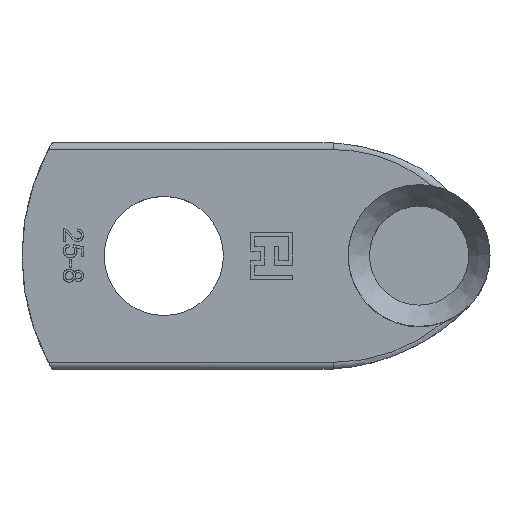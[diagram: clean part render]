
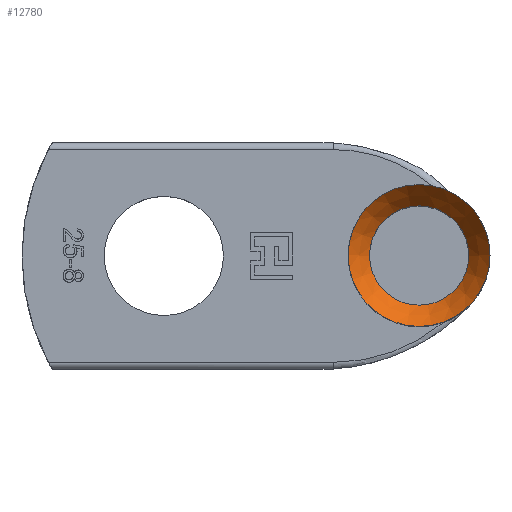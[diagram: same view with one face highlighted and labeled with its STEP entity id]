
A CAD part, top view. The second image highlights one B-rep face of the part: STEP entity #12780.
In plain terms, the highlighted conical face has half-angle 36.87 degrees and reference radius 3.5 mm.
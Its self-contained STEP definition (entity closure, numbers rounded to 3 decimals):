
#295 = CYLINDRICAL_SURFACE('',#296,5.);
#296 = AXIS2_PLACEMENT_3D('',#297,#298,#299);
#297 = CARTESIAN_POINT('',(28.,0.,7.503));
#298 = DIRECTION('',(-0.,-0.,-1.));
#299 = DIRECTION('',(1.,0.,0.));
#12730 = VERTEX_POINT('',#12731);
#12731 = CARTESIAN_POINT('',(33.,0.,22.503));
#12751 = EDGE_CURVE('',#12730,#12730,#12752,.T.);
#12752 = SURFACE_CURVE('',#12753,(#12758,#12765),.PCURVE_S1.);
#12753 = CIRCLE('',#12754,5.);
#12754 = AXIS2_PLACEMENT_3D('',#12755,#12756,#12757);
#12755 = CARTESIAN_POINT('',(28.,0.,22.503));
#12756 = DIRECTION('',(0.,0.,1.));
#12757 = DIRECTION('',(1.,0.,0.));
#12758 = PCURVE('',#295,#12759);
#12759 = DEFINITIONAL_REPRESENTATION('',(#12760),#12764);
#12760 = LINE('',#12761,#12762);
#12761 = CARTESIAN_POINT('',(-0.,-15.));
#12762 = VECTOR('',#12763,1.);
#12763 = DIRECTION('',(-1.,0.));
#12764 = ( GEOMETRIC_REPRESENTATION_CONTEXT(2) 
PARAMETRIC_REPRESENTATION_CONTEXT() REPRESENTATION_CONTEXT('2D SPACE',''
  ) );
#12765 = PCURVE('',#12766,#12771);
#12766 = CONICAL_SURFACE('',#12767,3.5,0.644);
#12767 = AXIS2_PLACEMENT_3D('',#12768,#12769,#12770);
#12768 = CARTESIAN_POINT('',(28.,0.,20.503));
#12769 = DIRECTION('',(0.,0.,1.));
#12770 = DIRECTION('',(1.,0.,0.));
#12771 = DEFINITIONAL_REPRESENTATION('',(#12772),#12775);
#12772 = B_SPLINE_CURVE_WITH_KNOTS('',1,(#12773,#12774),.UNSPECIFIED.,
  .F.,.F.,(2,2),(0.,6.283),.PIECEWISE_BEZIER_KNOTS.);
#12773 = CARTESIAN_POINT('',(0.,2.));
#12774 = CARTESIAN_POINT('',(6.283,2.));
#12775 = ( GEOMETRIC_REPRESENTATION_CONTEXT(2) 
PARAMETRIC_REPRESENTATION_CONTEXT() REPRESENTATION_CONTEXT('2D SPACE',''
  ) );
#12780 = ADVANCED_FACE('',(#12781),#12766,.F.);
#12781 = FACE_BOUND('',#12782,.F.);
#12782 = EDGE_LOOP('',(#12783,#12784,#12807,#12834));
#12783 = ORIENTED_EDGE('',*,*,#12751,.F.);
#12784 = ORIENTED_EDGE('',*,*,#12785,.F.);
#12785 = EDGE_CURVE('',#12786,#12730,#12788,.T.);
#12786 = VERTEX_POINT('',#12787);
#12787 = CARTESIAN_POINT('',(31.5,0.,20.503));
#12788 = SEAM_CURVE('',#12789,(#12793,#12800),.PCURVE_S1.);
#12789 = LINE('',#12790,#12791);
#12790 = CARTESIAN_POINT('',(31.5,0.,20.503));
#12791 = VECTOR('',#12792,1.);
#12792 = DIRECTION('',(0.6,0.,0.8));
#12793 = PCURVE('',#12766,#12794);
#12794 = DEFINITIONAL_REPRESENTATION('',(#12795),#12799);
#12795 = LINE('',#12796,#12797);
#12796 = CARTESIAN_POINT('',(6.283,-0.));
#12797 = VECTOR('',#12798,1.);
#12798 = DIRECTION('',(0.,1.));
#12799 = ( GEOMETRIC_REPRESENTATION_CONTEXT(2) 
PARAMETRIC_REPRESENTATION_CONTEXT() REPRESENTATION_CONTEXT('2D SPACE',''
  ) );
#12800 = PCURVE('',#12766,#12801);
#12801 = DEFINITIONAL_REPRESENTATION('',(#12802),#12806);
#12802 = LINE('',#12803,#12804);
#12803 = CARTESIAN_POINT('',(0.,-0.));
#12804 = VECTOR('',#12805,1.);
#12805 = DIRECTION('',(0.,1.));
#12806 = ( GEOMETRIC_REPRESENTATION_CONTEXT(2) 
PARAMETRIC_REPRESENTATION_CONTEXT() REPRESENTATION_CONTEXT('2D SPACE',''
  ) );
#12807 = ORIENTED_EDGE('',*,*,#12808,.T.);
#12808 = EDGE_CURVE('',#12786,#12786,#12809,.T.);
#12809 = SURFACE_CURVE('',#12810,(#12815,#12822),.PCURVE_S1.);
#12810 = CIRCLE('',#12811,3.5);
#12811 = AXIS2_PLACEMENT_3D('',#12812,#12813,#12814);
#12812 = CARTESIAN_POINT('',(28.,0.,20.503));
#12813 = DIRECTION('',(0.,0.,1.));
#12814 = DIRECTION('',(1.,0.,0.));
#12815 = PCURVE('',#12766,#12816);
#12816 = DEFINITIONAL_REPRESENTATION('',(#12817),#12821);
#12817 = LINE('',#12818,#12819);
#12818 = CARTESIAN_POINT('',(0.,0.));
#12819 = VECTOR('',#12820,1.);
#12820 = DIRECTION('',(1.,0.));
#12821 = ( GEOMETRIC_REPRESENTATION_CONTEXT(2) 
PARAMETRIC_REPRESENTATION_CONTEXT() REPRESENTATION_CONTEXT('2D SPACE',''
  ) );
#12822 = PCURVE('',#12823,#12828);
#12823 = CYLINDRICAL_SURFACE('',#12824,3.5);
#12824 = AXIS2_PLACEMENT_3D('',#12825,#12826,#12827);
#12825 = CARTESIAN_POINT('',(28.,0.,7.503));
#12826 = DIRECTION('',(-0.,-0.,-1.));
#12827 = DIRECTION('',(1.,0.,0.));
#12828 = DEFINITIONAL_REPRESENTATION('',(#12829),#12833);
#12829 = LINE('',#12830,#12831);
#12830 = CARTESIAN_POINT('',(-0.,-13.));
#12831 = VECTOR('',#12832,1.);
#12832 = DIRECTION('',(-1.,0.));
#12833 = ( GEOMETRIC_REPRESENTATION_CONTEXT(2) 
PARAMETRIC_REPRESENTATION_CONTEXT() REPRESENTATION_CONTEXT('2D SPACE',''
  ) );
#12834 = ORIENTED_EDGE('',*,*,#12785,.T.);
